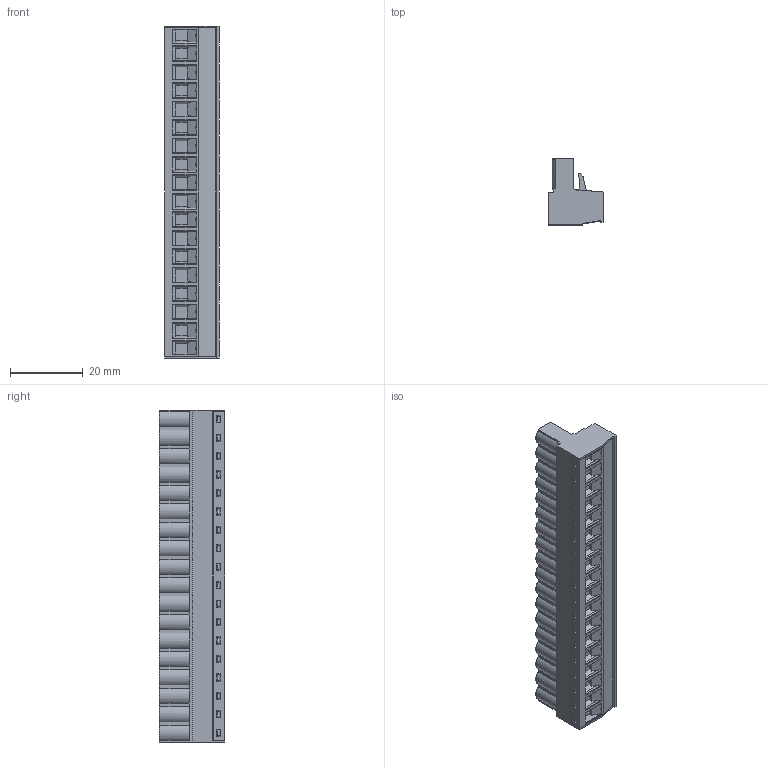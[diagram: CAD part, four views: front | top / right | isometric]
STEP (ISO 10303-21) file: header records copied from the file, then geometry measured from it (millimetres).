
FILE_DESCRIPTION (( 'STEP AP203' ), '1' );
FILE_NAME ('BR8F1-18.STEP', '2020-03-04T02:23:24', ( '' ), ( '' ), 'SwSTEP 2.0', 'SolidWorks 2019', '' );
FILE_SCHEMA (( 'CONFIG_CONTROL_DESIGN' ));
Length unit declared in the file: millimetre
Products named in the file (1): BR8F1-18
Bounding box: 15.05 x 18.1 x 91.44 mm (x, y, z)
Volume: 14511.5 mm3; surface area: 11892.9 mm2
Topology: 1 solids, 1 shells, 2323 faces, 6173 edges, 3960 vertices
Faces by surface type: plane 1421, cylinder 578, cone 144, torus 108, sphere 72
Entity records: 73278 total; most frequent: CARTESIAN_POINT 14847, ORIENTED_EDGE 12346, DIRECTION 11875, EDGE_CURVE 6173, VECTOR 4467, LINE 4467, VERTEX_POINT 3960, AXIS2_PLACEMENT_3D 3704
